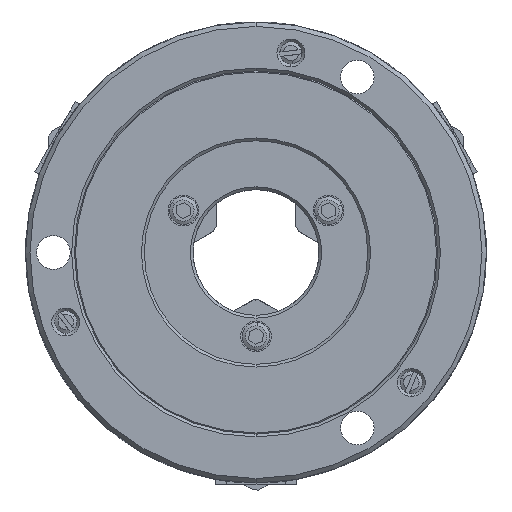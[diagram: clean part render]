
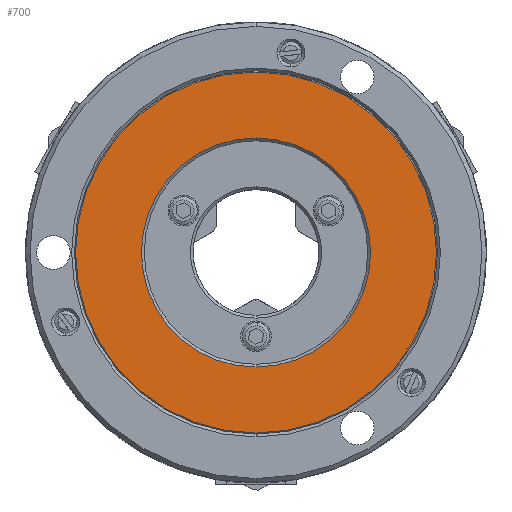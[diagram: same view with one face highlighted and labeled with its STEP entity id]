
A CAD part, front view. The second image highlights one B-rep face of the part: STEP entity #700.
In plain terms, the highlighted planar face has unit normal (0, -1, 0).
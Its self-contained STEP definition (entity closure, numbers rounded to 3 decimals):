
#700 = ADVANCED_FACE ( 'NONE', ( #704, #5676 ), #10326, .F. ) ;
#704 = FACE_OUTER_BOUND ( 'NONE', #1907, .T. ) ;
#778 = DIRECTION ( 'NONE',  ( 0., 1., 0. ) ) ;
#1206 = CARTESIAN_POINT ( 'NONE',  ( 0., 0., 41. ) ) ;
#1668 = DIRECTION ( 'NONE',  ( 0., 0., 1. ) ) ;
#1907 = EDGE_LOOP ( 'NONE', ( #7638, #6557 ) ) ;
#3174 = DIRECTION ( 'NONE',  ( 0., 1., 0. ) ) ;
#3291 = CIRCLE ( 'NONE', #9984, 41. ) ;
#3617 = CARTESIAN_POINT ( 'NONE',  ( 0., 0., 0. ) ) ;
#4061 = CIRCLE ( 'NONE', #13980, 64.6 ) ;
#4552 = AXIS2_PLACEMENT_3D ( 'NONE', #8302, #6983, #10854 ) ;
#4741 = VERTEX_POINT ( 'NONE', #1206 ) ;
#4801 = CIRCLE ( 'NONE', #4552, 64.6 ) ;
#4815 = CARTESIAN_POINT ( 'NONE',  ( 0., 0., -64.6 ) ) ;
#5676 = FACE_BOUND ( 'NONE', #13252, .T. ) ;
#5760 = CIRCLE ( 'NONE', #9469, 41. ) ;
#5880 = CARTESIAN_POINT ( 'NONE',  ( 0., 0., 0. ) ) ;
#6557 = ORIENTED_EDGE ( 'NONE', *, *, #13635, .F. ) ;
#6963 = DIRECTION ( 'NONE',  ( 0., 1., 0. ) ) ;
#6983 = DIRECTION ( 'NONE',  ( 0., 1., 0. ) ) ;
#7638 = ORIENTED_EDGE ( 'NONE', *, *, #11660, .F. ) ;
#7721 = CARTESIAN_POINT ( 'NONE',  ( 0., 0., -41. ) ) ;
#8128 = EDGE_CURVE ( 'NONE', #8388, #4741, #5760, .T. ) ;
#8302 = CARTESIAN_POINT ( 'NONE',  ( 0., 0., 0. ) ) ;
#8388 = VERTEX_POINT ( 'NONE', #7721 ) ;
#8582 = CARTESIAN_POINT ( 'NONE',  ( 0., 0., 0. ) ) ;
#9469 = AXIS2_PLACEMENT_3D ( 'NONE', #5880, #6963, #15343 ) ;
#9984 = AXIS2_PLACEMENT_3D ( 'NONE', #8582, #14483, #1668 ) ;
#10087 = AXIS2_PLACEMENT_3D ( 'NONE', #15069, #778, #11562 ) ;
#10326 = PLANE ( 'NONE',  #10087 ) ;
#10854 = DIRECTION ( 'NONE',  ( 0., 0., 1. ) ) ;
#11562 = DIRECTION ( 'NONE',  ( 0., 0., 1. ) ) ;
#11660 = EDGE_CURVE ( 'NONE', #15108, #14863, #4801, .T. ) ;
#11836 = DIRECTION ( 'NONE',  ( 0., 0., 1. ) ) ;
#12227 = ORIENTED_EDGE ( 'NONE', *, *, #8128, .T. ) ;
#12606 = EDGE_CURVE ( 'NONE', #4741, #8388, #3291, .T. ) ;
#13252 = EDGE_LOOP ( 'NONE', ( #12227, #15356 ) ) ;
#13635 = EDGE_CURVE ( 'NONE', #14863, #15108, #4061, .T. ) ;
#13980 = AXIS2_PLACEMENT_3D ( 'NONE', #3617, #3174, #11836 ) ;
#14100 = CARTESIAN_POINT ( 'NONE',  ( 0., 0., 64.6 ) ) ;
#14483 = DIRECTION ( 'NONE',  ( 0., 1., 0. ) ) ;
#14863 = VERTEX_POINT ( 'NONE', #4815 ) ;
#15069 = CARTESIAN_POINT ( 'NONE',  ( 34.641, 0., -20. ) ) ;
#15108 = VERTEX_POINT ( 'NONE', #14100 ) ;
#15343 = DIRECTION ( 'NONE',  ( 0., 0., 1. ) ) ;
#15356 = ORIENTED_EDGE ( 'NONE', *, *, #12606, .T. ) ;
